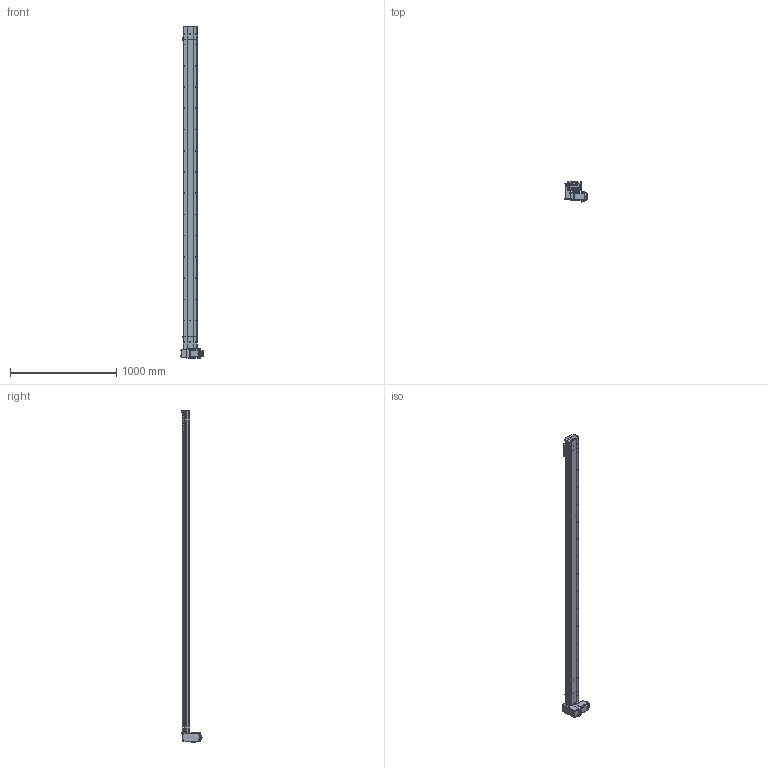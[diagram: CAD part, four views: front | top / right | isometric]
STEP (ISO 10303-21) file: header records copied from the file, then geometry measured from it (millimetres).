
FILE_DESCRIPTION (( 'STEP AP214' ), '1' );
FILE_NAME ('D14 TBH RU S2800.STEP', '2010-06-29T14:38:59', ( 'Conseil Régional Haute-Normandie' ), ( 'Conseil Régional Haute-Normandie' ), 'SwSTEP 2.0', 'SolidWorks 2010', '' );
FILE_SCHEMA (( 'AUTOMOTIVE_DESIGN' ));
Length unit declared in the file: millimetre
Products named in the file (39): D14 TBH RU S2800; Arbre+rail tail D14; Cache_Default; couvercle D14_Default; guide D14; Conecteur_Default; vis M5 L8 90°_Default; poulie tail_Default; Chariot D14; vis M5 L12_Default; chariot D14B_Default; Cvis M5 L70_Default; Vis M5 L16-2_Default; vis M5 L5_Default; renvoi RH_Default; Cache arbre_Default; codeur 90BLDC100-640; Conecteur2_Default; D14 couroie L2800_Default; Plaque racord D14_Default; couvercle D14 head_Default; Moteur motionking 90BLDC100A-640; avant 90BLDC100A-640; couvercle D14 course L2800_Default; Rail + couroie D14 Course 2800 ; Tail D14B_Default; corpl 2800_Default; Couroie_Default; corps 90BLDC100A-640; corpl tail D14_Default; plaque de  bout tail D14_Default; tete d''axe haut D14; D14 TB H RU_Default; couroie 2_Default; poulie head_Default; vis M5 L16_Default; plaque de  bout head D14 RU_Default; corp head D14_Default; Arbre+rail head D14
Assembly tree (68 placements, depth 4):
  D14 TBH RU S2800
    D14 couroie L2800_Default
      couvercle D14 course L2800_Default
      Rail + couroie D14 Course 2800 
      corpl 2800_Default
    Tail D14B_Default
      vis M5 L12_Default  x4
      vis M5 L16_Default  x2
      plaque de  bout tail D14_Default
      poulie tail_Default
      couvercle D14_Default
      Couroie_Default
      corpl tail D14_Default
      vis M5 L8 90°_Default  x2
      tete d''axe haut D14
      Arbre+rail tail D14
    chariot D14B_Default
      vis M5 L12_Default  x4
      guide D14  x2
      Chariot D14
    D14 TB H RU_Default
      vis M5 L12_Default  x12
      couroie 2_Default
      Cache_Default  x2
      Plaque racord D14_Default
      Cvis M5 L70_Default  x4
      renvoi RH_Default
      Cache arbre_Default
      vis M5 L5_Default  x2
      Arbre+rail head D14
      Vis M5 L16-2_Default  x4
      plaque de  bout head D14 RU_Default
      couvercle D14 head_Default
      Moteur motionking 90BLDC100A-640
        Conecteur2_Default
        Conecteur_Default
        avant 90BLDC100A-640
        corps 90BLDC100A-640
        codeur 90BLDC100-640
      corp head D14_Default
      poulie head_Default
Bounding box: 207.2 x 191.1 x 3125.75 mm (x, y, z)
Volume: 11553718.8 mm3; surface area: 4208474.4 mm2
Topology: 92 solids, 92 shells, 2757 faces, 6719 edges, 4338 vertices
Faces by surface type: plane 1621, cylinder 823, bspline 136, torus 89, cone 84, sphere 4
Entity records: 82916 total; most frequent: CARTESIAN_POINT 24153, ORIENTED_EDGE 10298, DIRECTION 10232, EDGE_CURVE 5149, AXIS2_PLACEMENT_3D 3431, VERTEX_POINT 3388, VECTOR 3370, LINE 3370
